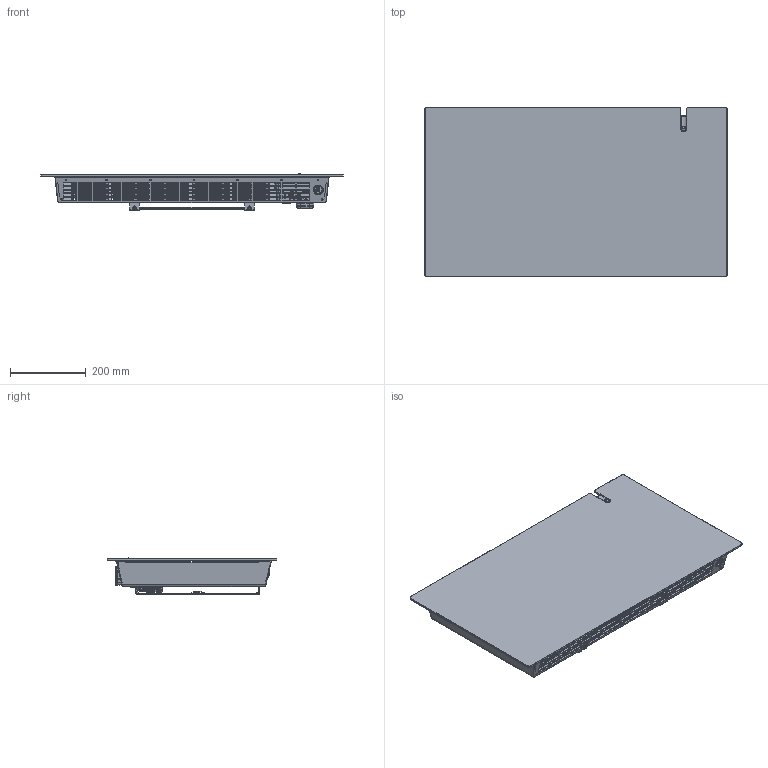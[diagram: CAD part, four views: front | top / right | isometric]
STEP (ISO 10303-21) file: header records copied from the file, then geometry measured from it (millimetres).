
FILE_DESCRIPTION(('FreeCAD Model'),'2;1');
FILE_NAME('Open CASCADE Shape Model','2026-06-03T14:49:49',(''),(''), 'Open CASCADE STEP processor 7.8','FreeCAD','Unknown');
FILE_SCHEMA(('AUTOMOTIVE_DESIGN { 1 0 10303 214 1 1 1 1 }'));
Length unit declared in the file: millimetre
Products named in the file (22): Unnamed; RMV_POSTERIORE-1000W; RMV_GR-SCATOLA-COMANDI_ASM; RMV_FONDO-SCATOLA-COMANDI; RMV_COPERCHIO-SCATOLA-COMANDI; RMV_SUPPORTO-SONDA; RMV_GR-FRONTALE_VETRO_1000W_ASM; RMV_VETRO_1000W; RMV_SUPPORTO-PIR-VETRO; RMV_BARRA-FISSAGGIO-SUP_1000W; RMV_GR-PIR-BOARD_ASM; RMV_PIR-BOARD; RMV_GR-DISPLAY_ASM; RMV_PROTEZIONE-TRASPARE-DISPLAY; RMV_COPERTURA-SUPERIORE-COMANDI; SOLID015; RMV_GR-SUPPORTO-MURALE_07-10_ASM; KLI_TRAVERSA-SUPPORTO_MIN; RMV_GR-ASTA-SUPPORTO-MURALE_ASM; RMV_STAFFA-SUPPORTO-MURALE; RMV_GR-ASTA-SUPPORTO-MURALE_ASM001; WFB_COPERCHIO
Assembly tree (22 placements, depth 4):
  Unnamed
    RMV_POSTERIORE-1000W
    RMV_GR-SCATOLA-COMANDI_ASM
      RMV_FONDO-SCATOLA-COMANDI
      RMV_COPERCHIO-SCATOLA-COMANDI
    RMV_SUPPORTO-SONDA
    RMV_GR-FRONTALE_VETRO_1000W_ASM
      RMV_VETRO_1000W
      RMV_SUPPORTO-PIR-VETRO
      RMV_BARRA-FISSAGGIO-SUP_1000W
    RMV_GR-PIR-BOARD_ASM
      RMV_PIR-BOARD
    RMV_GR-DISPLAY_ASM
      RMV_PROTEZIONE-TRASPARE-DISPLAY
    RMV_COPERTURA-SUPERIORE-COMANDI
      SOLID015
    RMV_GR-SUPPORTO-MURALE_07-10_ASM
      KLI_TRAVERSA-SUPPORTO_MIN
      RMV_GR-ASTA-SUPPORTO-MURALE_ASM
        RMV_STAFFA-SUPPORTO-MURALE
      RMV_GR-ASTA-SUPPORTO-MURALE_ASM001
        RMV_STAFFA-SUPPORTO-MURALE
    WFB_COPERCHIO
Bounding box: 800 x 450 x 97.1 mm (x, y, z)
Volume: 2345241.8 mm3; surface area: 1865435.8 mm2
Topology: 14 solids, 14 shells, 5282 faces, 14522 edges, 9305 vertices
Faces by surface type: plane 3362, cylinder 997, bspline 471, cone 290, torus 120, sphere 30, extrusion 12
Entity records: 199640 total; most frequent: CARTESIAN_POINT 74646, ORIENTED_EDGE 28450, DIRECTION 21851, EDGE_CURVE 14225, VERTEX_POINT 9124, VECTOR 8673, LINE 8661, AXIS2_PLACEMENT_3D 6589
